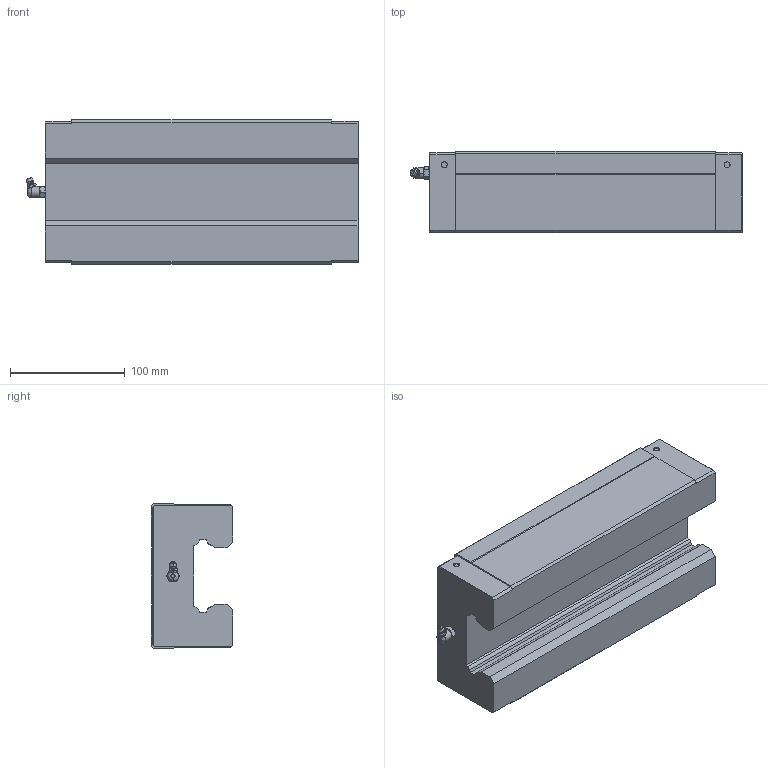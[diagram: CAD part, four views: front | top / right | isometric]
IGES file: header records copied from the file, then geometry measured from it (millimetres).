
Start section: SolidWorks IGES file using analytic representation for surfaces
Global section: file name: C:\Users\EOS\Desktop\output_#task\SHS65LV.igs; native system: SolidWorks 2017; preprocessor: SolidWorks 2017; author: EOS; date: 170918.091449; units: millimetre
Bounding box: 288.7 x 71 x 126 mm (x, y, z)
Surface area: 146166.8 mm2 (no closed solid volume)
Topology: 0 solids, 0 shells, 154 faces, 1826 edges, 1811 vertices
Faces by surface type: bspline 92, revolution 62
